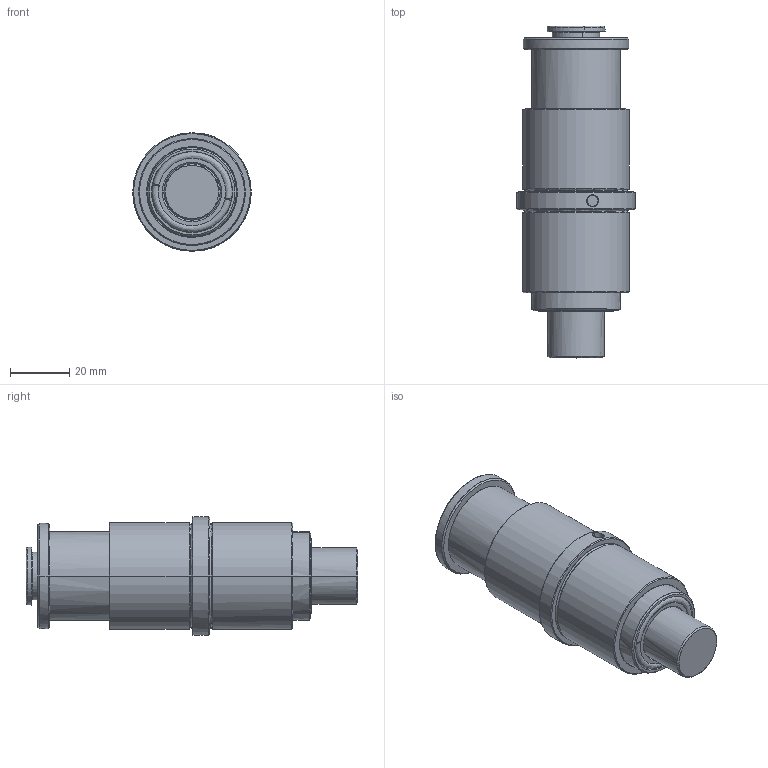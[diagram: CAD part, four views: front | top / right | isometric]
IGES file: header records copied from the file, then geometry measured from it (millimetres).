
Start section: START RECORD GO HERE.
Global section: file name: ae123036.igs; native system: DASSAULT SYSTEMES CATIA V5 R20 - www.3ds.com; preprocessor: CATIA Version 5 Release 20 ; author: Utente; organization: NB04-ASUS; date: 20201103.202806; units: millimetre
Bounding box: 40 x 112 x 40 mm (x, y, z)
Surface area: 45126.5 mm2 (no closed solid volume)
Topology: 0 solids, 0 shells, 669 faces, 3391 edges, 3291 vertices
Faces by surface type: revolution 448, plane 181, bspline 40
